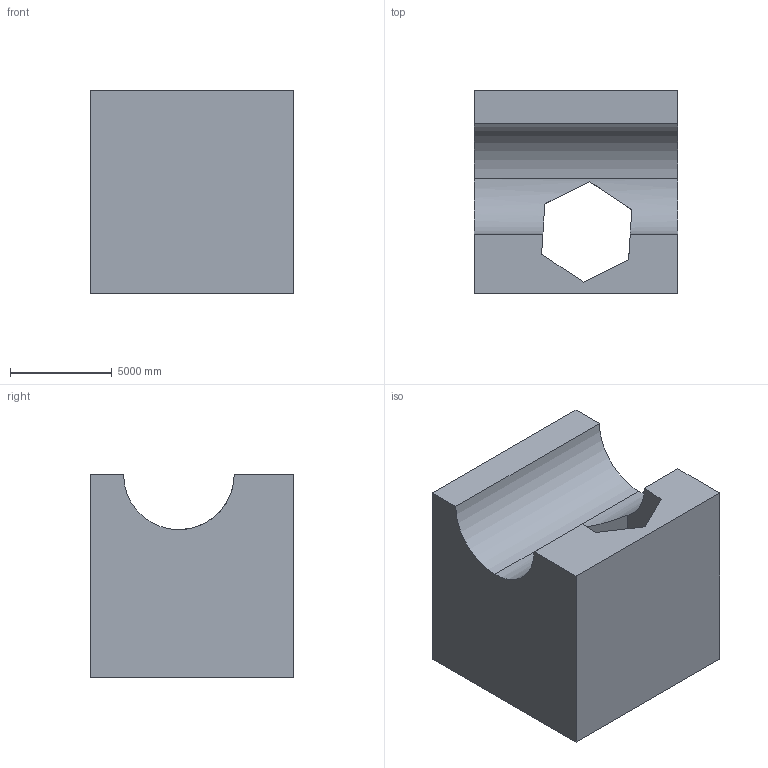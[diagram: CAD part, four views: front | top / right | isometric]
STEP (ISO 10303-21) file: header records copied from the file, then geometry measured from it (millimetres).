
FILE_DESCRIPTION (( 'STEP AP203' ), '1' );
FILE_NAME ('99.STEP', '2022-07-28T13:36:47', ( 'user' ), ( '' ), 'SwSTEP 2.0', 'SolidWorks 2021', '' );
FILE_SCHEMA (( 'CONFIG_CONTROL_DESIGN' ));
Length unit declared in the file: centimetre
Products named in the file (1): 99
Bounding box: 10000 x 10000 x 10000 mm (x, y, z)
Volume: 740590467558.4 mm3; surface area: 700576009.7 mm2
Topology: 1 solids, 1 shells, 15 faces, 42 edges, 28 vertices
Faces by surface type: plane 13, cylinder 2
Entity records: 561 total; most frequent: CARTESIAN_POINT 98, ORIENTED_EDGE 84, DIRECTION 74, EDGE_CURVE 42, LINE 34, VECTOR 34, VERTEX_POINT 28, AXIS2_PLACEMENT_3D 20
